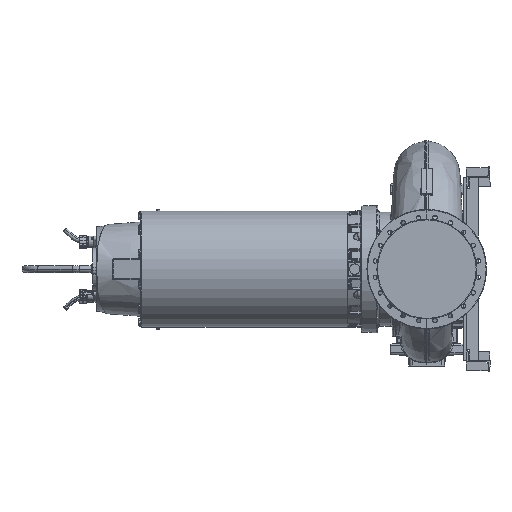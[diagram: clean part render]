
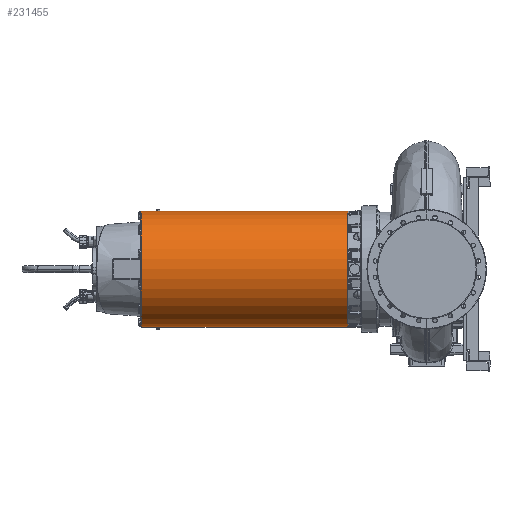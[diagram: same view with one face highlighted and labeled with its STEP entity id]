
A CAD part, left-side view. The second image highlights one B-rep face of the part: STEP entity #231455.
In plain terms, the highlighted cylindrical face has radius 344 mm (diameter 688 mm), a partial arc.
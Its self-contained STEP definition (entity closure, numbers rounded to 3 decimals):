
#1343 = VERTEX_POINT ( 'NONE', #205263 ) ;
#1816 = DIRECTION ( 'NONE',  ( 0., 0., -1. ) ) ;
#3109 = CARTESIAN_POINT ( 'NONE',  ( 0., 1859.53, -344. ) ) ;
#4921 = LINE ( 'NONE', #216696, #54694 ) ;
#7189 = EDGE_CURVE ( 'NONE', #262025, #254784, #106768, .T. ) ;
#8170 = VERTEX_POINT ( 'NONE', #22821 ) ;
#12933 = EDGE_CURVE ( 'NONE', #1343, #48316, #87393, .T. ) ;
#14401 = EDGE_CURVE ( 'NONE', #269812, #155532, #111925, .T. ) ;
#22821 = CARTESIAN_POINT ( 'NONE',  ( -9.5, 1875.985, -343.869 ) ) ;
#26668 = ORIENTED_EDGE ( 'NONE', *, *, #194122, .T. ) ;
#28009 = CARTESIAN_POINT ( 'NONE',  ( -9.5, 2110.849, -343.869 ) ) ;
#30760 = EDGE_CURVE ( 'NONE', #254784, #165992, #190486, .T. ) ;
#32356 = CARTESIAN_POINT ( 'NONE',  ( -9.5, 1875.985, -343.869 ) ) ;
#34436 = CARTESIAN_POINT ( 'NONE',  ( 0., 765.5, 344. ) ) ;
#39973 = CARTESIAN_POINT ( 'NONE',  ( -9.5, 1865.015, -343.869 ) ) ;
#40238 = CARTESIAN_POINT ( 'NONE',  ( -6.334, 1863.187, -343.956 ) ) ;
#40823 = CARTESIAN_POINT ( 'NONE',  ( -3.167, 1861.359, -344. ) ) ;
#43361 = DIRECTION ( 'NONE',  ( 0., -1., 0. ) ) ;
#45115 = CARTESIAN_POINT ( 'NONE',  ( 0., 1859.53, -344. ) ) ;
#48316 = VERTEX_POINT ( 'NONE', #244147 ) ;
#54694 = VECTOR ( 'NONE', #172369, 1000. ) ;
#56046 = ORIENTED_EDGE ( 'NONE', *, *, #260221, .T. ) ;
#58616 = CARTESIAN_POINT ( 'NONE',  ( -9.5, 1865.015, -343.869 ) ) ;
#60332 = CARTESIAN_POINT ( 'NONE',  ( -9.5, 1875.985, 343.869 ) ) ;
#63318 = DIRECTION ( 'NONE',  ( 0., -1., 0. ) ) ;
#72504 = VECTOR ( 'NONE', #202839, 1000. ) ;
#74349 = DIRECTION ( 'NONE',  ( 0., 1., 0. ) ) ;
#75006 = CARTESIAN_POINT ( 'NONE',  ( 0., 1881.47, -344. ) ) ;
#76289 = EDGE_CURVE ( 'NONE', #8170, #165992, #121246, .T. ) ;
#78967 = CARTESIAN_POINT ( 'NONE',  ( -9.5, 1865.015, 343.869 ) ) ;
#82360 = EDGE_CURVE ( 'NONE', #48316, #124905, #98531, .T. ) ;
#83652 = EDGE_CURVE ( 'NONE', #95031, #108477, #261581, .T. ) ;
#87393 = LINE ( 'NONE', #273743, #193222 ) ;
#87823 = CARTESIAN_POINT ( 'NONE',  ( 0., 1970.5, -344. ) ) ;
#95031 = VERTEX_POINT ( 'NONE', #267083 ) ;
#97351 = ORIENTED_EDGE ( 'NONE', *, *, #83652, .F. ) ;
#98531 =( BOUNDED_CURVE ( )  B_SPLINE_CURVE ( 3, ( #60332, #208399, #229672, #102986 ),
 .UNSPECIFIED., .F., .F. ) 
 B_SPLINE_CURVE_WITH_KNOTS ( ( 4, 4 ),
 ( 4.685, 4.712 ),
 .UNSPECIFIED. ) 
 CURVE ( )  GEOMETRIC_REPRESENTATION_ITEM ( )  RATIONAL_B_SPLINE_CURVE ( ( 1., 1., 1., 1. ) ) 
 REPRESENTATION_ITEM ( '' )  );
#102070 = AXIS2_PLACEMENT_3D ( 'NONE', #105629, #191606, #1816 ) ;
#102986 = CARTESIAN_POINT ( 'NONE',  ( 0., 1881.47, 344. ) ) ;
#104556 = CARTESIAN_POINT ( 'NONE',  ( 0., 765.5, -344. ) ) ;
#105629 = CARTESIAN_POINT ( 'NONE',  ( 0., 765.5, 0. ) ) ;
#106768 = CIRCLE ( 'NONE', #194336, 344. ) ;
#108477 = VERTEX_POINT ( 'NONE', #264118 ) ;
#111429 = EDGE_CURVE ( 'NONE', #262025, #124905, #234686, .T. ) ;
#111925 =( BOUNDED_CURVE ( )  B_SPLINE_CURVE ( 3, ( #45115, #40823, #40238, #39973 ),
 .UNSPECIFIED., .F., .F. ) 
 B_SPLINE_CURVE_WITH_KNOTS ( ( 4, 4 ),
 ( 4.712, 4.74 ),
 .UNSPECIFIED. ) 
 CURVE ( )  GEOMETRIC_REPRESENTATION_ITEM ( )  RATIONAL_B_SPLINE_CURVE ( ( 1., 1., 1., 1. ) ) 
 REPRESENTATION_ITEM ( '' )  );
#121246 =( BOUNDED_CURVE ( )  B_SPLINE_CURVE ( 3, ( #32356, #159123, #201695, #75006 ),
 .UNSPECIFIED., .F., .F. ) 
 B_SPLINE_CURVE_WITH_KNOTS ( ( 4, 4 ),
 ( 4.685, 4.712 ),
 .UNSPECIFIED. ) 
 CURVE ( )  GEOMETRIC_REPRESENTATION_ITEM ( )  RATIONAL_B_SPLINE_CURVE ( ( 1., 1., 1., 1. ) ) 
 REPRESENTATION_ITEM ( '' )  );
#122810 = CARTESIAN_POINT ( 'NONE',  ( 0., 1970.5, 344. ) ) ;
#124327 = ORIENTED_EDGE ( 'NONE', *, *, #14401, .F. ) ;
#124905 = VERTEX_POINT ( 'NONE', #253107 ) ;
#131204 =( BOUNDED_CURVE ( )  B_SPLINE_CURVE ( 3, ( #225980, #141795, #205607, #78967 ),
 .UNSPECIFIED., .F., .F. ) 
 B_SPLINE_CURVE_WITH_KNOTS ( ( 4, 4 ),
 ( 4.712, 4.74 ),
 .UNSPECIFIED. ) 
 CURVE ( )  GEOMETRIC_REPRESENTATION_ITEM ( )  RATIONAL_B_SPLINE_CURVE ( ( 1., 1., 1., 1. ) ) 
 REPRESENTATION_ITEM ( '' )  );
#133793 = AXIS2_PLACEMENT_3D ( 'NONE', #190071, #63318, #211317 ) ;
#141795 = CARTESIAN_POINT ( 'NONE',  ( -3.167, 1861.359, 344. ) ) ;
#144275 = ORIENTED_EDGE ( 'NONE', *, *, #12933, .T. ) ;
#155532 = VERTEX_POINT ( 'NONE', #58616 ) ;
#156702 = CARTESIAN_POINT ( 'NONE',  ( 0., 765.5, -344. ) ) ;
#157453 = EDGE_CURVE ( 'NONE', #155532, #8170, #179902, .T. ) ;
#159123 = CARTESIAN_POINT ( 'NONE',  ( -6.334, 1877.813, -343.956 ) ) ;
#165992 = VERTEX_POINT ( 'NONE', #248181 ) ;
#168708 = ORIENTED_EDGE ( 'NONE', *, *, #274398, .F. ) ;
#172369 = DIRECTION ( 'NONE',  ( 0., -1., 0. ) ) ;
#178242 = LINE ( 'NONE', #156702, #234549 ) ;
#179902 = LINE ( 'NONE', #28009, #236135 ) ;
#182158 = EDGE_LOOP ( 'NONE', ( #229543, #250213, #252672, #268900, #270925, #124327, #26668, #97351, #168708, #56046, #144275, #191782 ) ) ;
#190071 = CARTESIAN_POINT ( 'NONE',  ( 0., 745.5, 0. ) ) ;
#190486 = LINE ( 'NONE', #104556, #240103 ) ;
#191606 = DIRECTION ( 'NONE',  ( 0., -1., 0. ) ) ;
#191782 = ORIENTED_EDGE ( 'NONE', *, *, #82360, .T. ) ;
#193222 = VECTOR ( 'NONE', #260380, 1000. ) ;
#194122 = EDGE_CURVE ( 'NONE', #269812, #108477, #178242, .T. ) ;
#194336 = AXIS2_PLACEMENT_3D ( 'NONE', #263329, #262703, #262370 ) ;
#197636 = CARTESIAN_POINT ( 'NONE',  ( 0., 1859.53, 344. ) ) ;
#201695 = CARTESIAN_POINT ( 'NONE',  ( -3.167, 1879.641, -344. ) ) ;
#202839 = DIRECTION ( 'NONE',  ( 0., -1., 0. ) ) ;
#205263 = CARTESIAN_POINT ( 'NONE',  ( -9.5, 1865.015, 343.869 ) ) ;
#205607 = CARTESIAN_POINT ( 'NONE',  ( -6.334, 1863.187, 343.956 ) ) ;
#207654 = CYLINDRICAL_SURFACE ( 'NONE', #102070, 344. ) ;
#208399 = CARTESIAN_POINT ( 'NONE',  ( -6.334, 1877.813, 343.956 ) ) ;
#211317 = DIRECTION ( 'NONE',  ( 0., 0., -1. ) ) ;
#216696 = CARTESIAN_POINT ( 'NONE',  ( 0., 765.5, 344. ) ) ;
#225980 = CARTESIAN_POINT ( 'NONE',  ( 0., 1859.53, 344. ) ) ;
#229543 = ORIENTED_EDGE ( 'NONE', *, *, #111429, .F. ) ;
#229672 = CARTESIAN_POINT ( 'NONE',  ( -3.167, 1879.641, 344. ) ) ;
#231455 = ADVANCED_FACE ( 'NONE', ( #234209 ), #207654, .T. ) ;
#234209 = FACE_OUTER_BOUND ( 'NONE', #182158, .T. ) ;
#234549 = VECTOR ( 'NONE', #241795, 1000. ) ;
#234686 = LINE ( 'NONE', #34436, #72504 ) ;
#236135 = VECTOR ( 'NONE', #74349, 1000. ) ;
#240103 = VECTOR ( 'NONE', #43361, 1000. ) ;
#241795 = DIRECTION ( 'NONE',  ( 0., -1., 0. ) ) ;
#244147 = CARTESIAN_POINT ( 'NONE',  ( -9.5, 1875.985, 343.869 ) ) ;
#248181 = CARTESIAN_POINT ( 'NONE',  ( 0., 1881.47, -344. ) ) ;
#250213 = ORIENTED_EDGE ( 'NONE', *, *, #7189, .T. ) ;
#252672 = ORIENTED_EDGE ( 'NONE', *, *, #30760, .T. ) ;
#253107 = CARTESIAN_POINT ( 'NONE',  ( 0., 1881.47, 344. ) ) ;
#254784 = VERTEX_POINT ( 'NONE', #87823 ) ;
#259763 = VERTEX_POINT ( 'NONE', #197636 ) ;
#260221 = EDGE_CURVE ( 'NONE', #259763, #1343, #131204, .T. ) ;
#260380 = DIRECTION ( 'NONE',  ( 0., 1., 0. ) ) ;
#261581 = CIRCLE ( 'NONE', #133793, 344. ) ;
#262025 = VERTEX_POINT ( 'NONE', #122810 ) ;
#262370 = DIRECTION ( 'NONE',  ( 0., 0., -1. ) ) ;
#262703 = DIRECTION ( 'NONE',  ( 0., -1., 0. ) ) ;
#263329 = CARTESIAN_POINT ( 'NONE',  ( 0., 1970.5, 0. ) ) ;
#264118 = CARTESIAN_POINT ( 'NONE',  ( 0., 745.5, -344. ) ) ;
#267083 = CARTESIAN_POINT ( 'NONE',  ( 0., 745.5, 344. ) ) ;
#268900 = ORIENTED_EDGE ( 'NONE', *, *, #76289, .F. ) ;
#269812 = VERTEX_POINT ( 'NONE', #3109 ) ;
#270925 = ORIENTED_EDGE ( 'NONE', *, *, #157453, .F. ) ;
#273743 = CARTESIAN_POINT ( 'NONE',  ( -9.5, 2110.849, 343.869 ) ) ;
#274398 = EDGE_CURVE ( 'NONE', #259763, #95031, #4921, .T. ) ;
